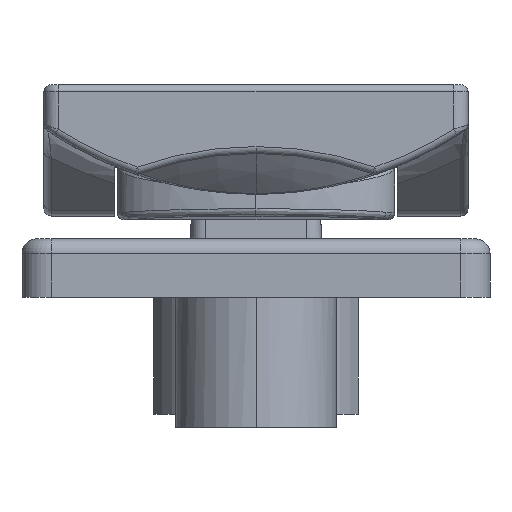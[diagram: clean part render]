
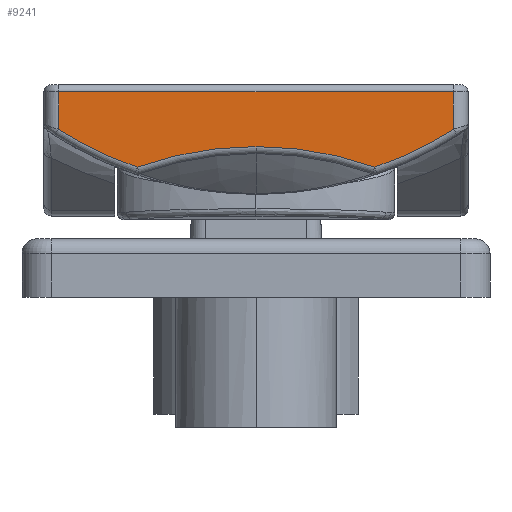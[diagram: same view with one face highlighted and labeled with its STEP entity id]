
A CAD part, front view. The second image highlights one B-rep face of the part: STEP entity #9241.
In plain terms, the highlighted planar face has unit normal (0, -1, 0).
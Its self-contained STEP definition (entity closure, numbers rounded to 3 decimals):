
#185 = VERTEX_POINT ( 'NONE', #6063 ) ;
#572 = CARTESIAN_POINT ( 'NONE',  ( 23.5, -108.5, 0. ) ) ;
#647 = CARTESIAN_POINT ( 'NONE',  ( -0.758, -108.5, 0. ) ) ;
#1046 = CIRCLE ( 'NONE', #3329, 24.258 ) ;
#1128 = EDGE_CURVE ( 'NONE', #8923, #7034, #6185, .T. ) ;
#1159 = VECTOR ( 'NONE', #5065, 1000. ) ;
#1304 = ORIENTED_EDGE ( 'NONE', *, *, #8650, .F. ) ;
#1423 = PLANE ( 'NONE',  #6118 ) ;
#1431 = AXIS2_PLACEMENT_3D ( 'NONE', #572, #9380, #8415 ) ;
#1810 = AXIS2_PLACEMENT_3D ( 'NONE', #9087, #10036, #4160 ) ;
#2073 = CARTESIAN_POINT ( 'NONE',  ( -4.5, -108.5, -13.5 ) ) ;
#2222 = DIRECTION ( 'NONE',  ( 1., 0., 0. ) ) ;
#2496 = DIRECTION ( 'NONE',  ( 0., -1., 0. ) ) ;
#2685 = LINE ( 'NONE', #9502, #3424 ) ;
#2774 = EDGE_CURVE ( 'NONE', #7034, #9230, #3719, .T. ) ;
#3046 = CARTESIAN_POINT ( 'NONE',  ( 0.646, -108.5, -8.134 ) ) ;
#3053 = LINE ( 'NONE', #2073, #1159 ) ;
#3329 = AXIS2_PLACEMENT_3D ( 'NONE', #9347, #3383, #4487 ) ;
#3383 = DIRECTION ( 'NONE',  ( 0., 1., 0. ) ) ;
#3424 = VECTOR ( 'NONE', #6662, 1000. ) ;
#3496 = ORIENTED_EDGE ( 'NONE', *, *, #4315, .T. ) ;
#3719 = CIRCLE ( 'NONE', #1431, 24.258 ) ;
#4160 = DIRECTION ( 'NONE',  ( 0., 0., 1. ) ) ;
#4315 = EDGE_CURVE ( 'NONE', #8319, #7683, #11697, .T. ) ;
#4487 = DIRECTION ( 'NONE',  ( 0., 0., 1. ) ) ;
#4493 = ORIENTED_EDGE ( 'NONE', *, *, #1128, .T. ) ;
#5065 = DIRECTION ( 'NONE',  ( 0., 0., -1. ) ) ;
#5351 = VECTOR ( 'NONE', #2222, 1000. ) ;
#6063 = CARTESIAN_POINT ( 'NONE',  ( -4.5, -108.5, -13.5 ) ) ;
#6118 = AXIS2_PLACEMENT_3D ( 'NONE', #9394, #6369, #11334 ) ;
#6185 = CIRCLE ( 'NONE', #1810, 25.111 ) ;
#6202 = CARTESIAN_POINT ( 'NONE',  ( -6., -108.5, 13.5 ) ) ;
#6317 = LINE ( 'NONE', #6202, #5351 ) ;
#6322 = ORIENTED_EDGE ( 'NONE', *, *, #9123, .T. ) ;
#6327 = AXIS2_PLACEMENT_3D ( 'NONE', #6409, #2496, #10518 ) ;
#6369 = DIRECTION ( 'NONE',  ( 0., 1., 0. ) ) ;
#6409 = CARTESIAN_POINT ( 'NONE',  ( -23.111, -108.5, 0. ) ) ;
#6662 = DIRECTION ( 'NONE',  ( 1., 0., 0. ) ) ;
#6780 = EDGE_CURVE ( 'NONE', #9230, #8319, #1046, .T. ) ;
#6956 = CARTESIAN_POINT ( 'NONE',  ( -1.938, -108.5, -13.5 ) ) ;
#7034 = VERTEX_POINT ( 'NONE', #3046 ) ;
#7239 = CARTESIAN_POINT ( 'NONE',  ( -1.938, -108.5, 13.5 ) ) ;
#7251 = ORIENTED_EDGE ( 'NONE', *, *, #6780, .T. ) ;
#7361 = CARTESIAN_POINT ( 'NONE',  ( -4.5, -108.5, 13.5 ) ) ;
#7668 = ORIENTED_EDGE ( 'NONE', *, *, #2774, .T. ) ;
#7683 = VERTEX_POINT ( 'NONE', #7239 ) ;
#8319 = VERTEX_POINT ( 'NONE', #8939 ) ;
#8415 = DIRECTION ( 'NONE',  ( 0., 0., 1. ) ) ;
#8650 = EDGE_CURVE ( 'NONE', #12085, #7683, #6317, .T. ) ;
#8923 = VERTEX_POINT ( 'NONE', #6956 ) ;
#8939 = CARTESIAN_POINT ( 'NONE',  ( 0.646, -108.5, 8.134 ) ) ;
#9087 = CARTESIAN_POINT ( 'NONE',  ( -23.111, -108.5, 0. ) ) ;
#9123 = EDGE_CURVE ( 'NONE', #12085, #185, #3053, .T. ) ;
#9230 = VERTEX_POINT ( 'NONE', #647 ) ;
#9241 = ADVANCED_FACE ( 'NONE', ( #12306 ), #1423, .F. ) ;
#9347 = CARTESIAN_POINT ( 'NONE',  ( 23.5, -108.5, 0. ) ) ;
#9380 = DIRECTION ( 'NONE',  ( 0., 1., 0. ) ) ;
#9394 = CARTESIAN_POINT ( 'NONE',  ( -6., -108.5, 14.5 ) ) ;
#9413 = ORIENTED_EDGE ( 'NONE', *, *, #10189, .T. ) ;
#9502 = CARTESIAN_POINT ( 'NONE',  ( -6., -108.5, -13.5 ) ) ;
#10036 = DIRECTION ( 'NONE',  ( 0., -1., 0. ) ) ;
#10189 = EDGE_CURVE ( 'NONE', #185, #8923, #2685, .T. ) ;
#10518 = DIRECTION ( 'NONE',  ( 0., 0., 1. ) ) ;
#11334 = DIRECTION ( 'NONE',  ( 0., 0., 1. ) ) ;
#11346 = EDGE_LOOP ( 'NONE', ( #1304, #6322, #9413, #4493, #7668, #7251, #3496 ) ) ;
#11697 = CIRCLE ( 'NONE', #6327, 25.111 ) ;
#12085 = VERTEX_POINT ( 'NONE', #7361 ) ;
#12306 = FACE_OUTER_BOUND ( 'NONE', #11346, .T. ) ;
